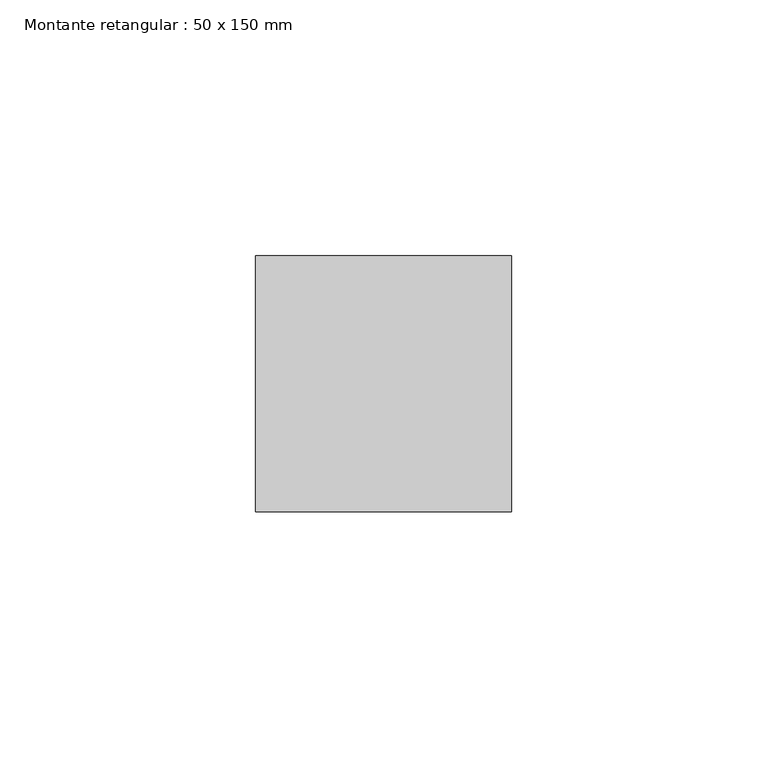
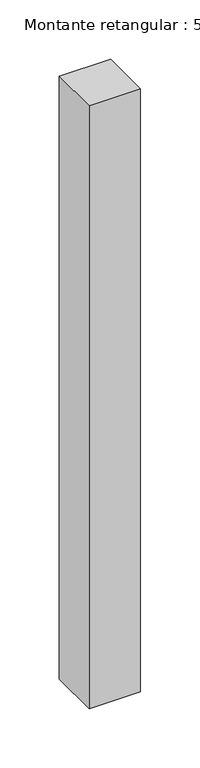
"""IFC4 building model written with IfcOpenShell, lengths in millimetres: member geometry, Montante retangular : 50 x 150 mm."""

from ifc_helpers import new_model, si_unit, frame, origin, place, context, project, spatial, polyline, outline, extrude, source, transform, mapped, element, save


def montante_retangular_50_x_150_mm_74f0292e(model_context):
    return source(origin(), model_context, "Body", "SweptSolid", [
        extrude(outline(polyline([(0.0, 25.0), (0.0, -25.0), (-50.0, -25.0), (-50.0, 25.0), (0.0, 25.0)])), frame((0.0, 0.0, -620.0), z_axis=(0.0, 0.0, 1.0), x_axis=(1.0, 0.0, 0.0)), (0.0, 0.0, 1.0), 620.0),
    ])


if __name__ == "__main__":
    model = new_model("IFC4")
    model_context = context("Model", 3, world=origin())
    ifc_project = project(units=[si_unit("LENGTHUNIT", "METRE", prefix="MILLI")], contexts=[model_context])
    site = spatial("IfcSite", under=ifc_project)
    building = spatial("IfcBuilding", under=site)
    placement = place(None, origin())
    montante_retangular_50_x_150_mm_shape = montante_retangular_50_x_150_mm_74f0292e(model_context)
    element("IfcMember", 1, ObjectType="Montante retangular : 50 x 150 mm", at=placement, inside=building, context=model_context, shape_type="MappedRepresentation", body=[
        mapped(montante_retangular_50_x_150_mm_shape, transform((0.0, 0.0, 0.0), x_axis=(1.0, 0.0, 0.0), y_axis=(0.0, 1.0, 0.0), z_axis=(0.0, 0.0, 1.0))),
    ])
    save(model, "model.ifc")
